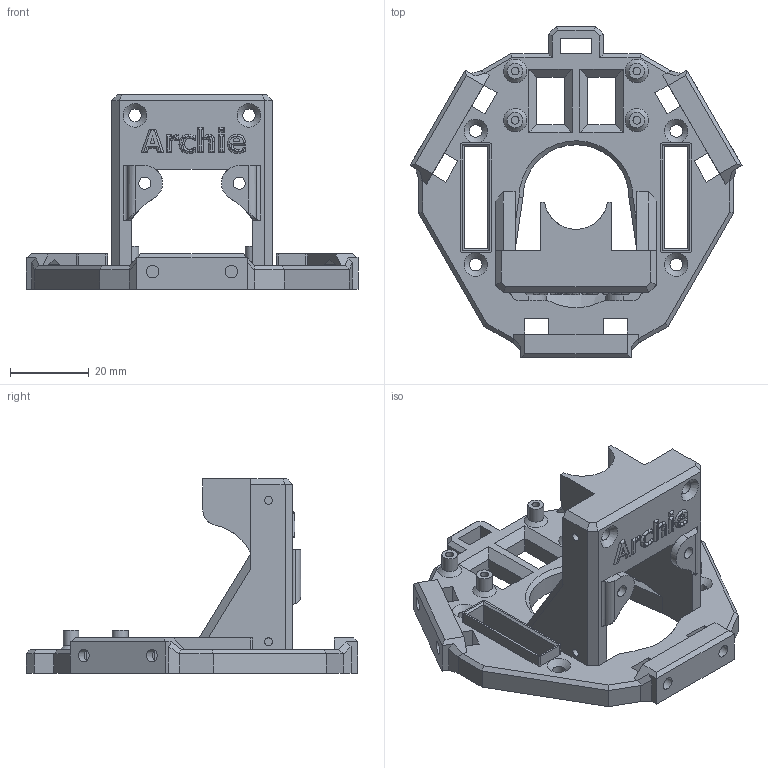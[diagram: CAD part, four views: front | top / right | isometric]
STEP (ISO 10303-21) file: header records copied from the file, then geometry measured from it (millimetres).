
FILE_DESCRIPTION(/* description */ (''),/* implementation_level */ '2;1');
FILE_NAME(/* name */ 'D:\3D печать\Мои проекты\Archy MK 2\STEP\MK3\эффектор V2.stp',/* time_stamp */ '2019-07-18T21:42:05+06:00',/* author */ ('Пользователь'),/* organization */ (''),/* preprocessor_version */ 'ST-DEVELOPER v16.5',/* originating_system */ 'Autodesk Inventor 2017',/* authorisation */ '');
FILE_SCHEMA (('AUTOMOTIVE_DESIGN { 1 0 10303 214 3 1 1 }'));
Length unit declared in the file: millimetre
Products named in the file (1): эффектор V2
Bounding box: 84.49 x 84.35 x 49.5 mm (x, y, z)
Volume: 35637.9 mm3; surface area: 19145.9 mm2
Topology: 1 solids, 1 shells, 375 faces, 1001 edges, 654 vertices
Faces by surface type: plane 247, cylinder 81, bspline 36, cone 11
Full cylindrical faces by diameter (mm): 2 x8, 3.1 x2, 3.2 x12, 4 x4
Entity records: 13077 total; most frequent: CARTESIAN_POINT 3879, ORIENTED_EDGE 1916, DIRECTION 1725, EDGE_CURVE 958, LINE 707, VECTOR 707, VERTEX_POINT 642, AXIS2_PLACEMENT_3D 509
